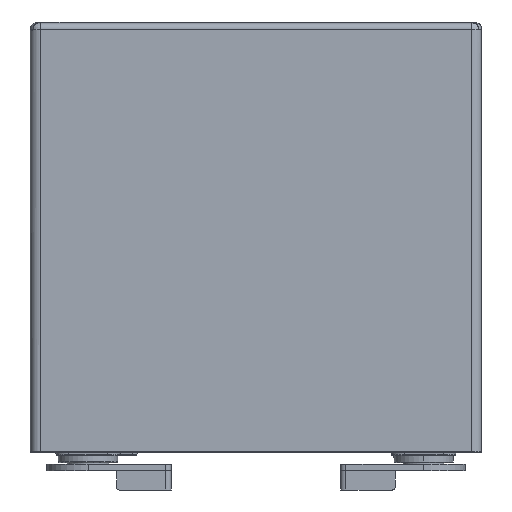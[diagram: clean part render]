
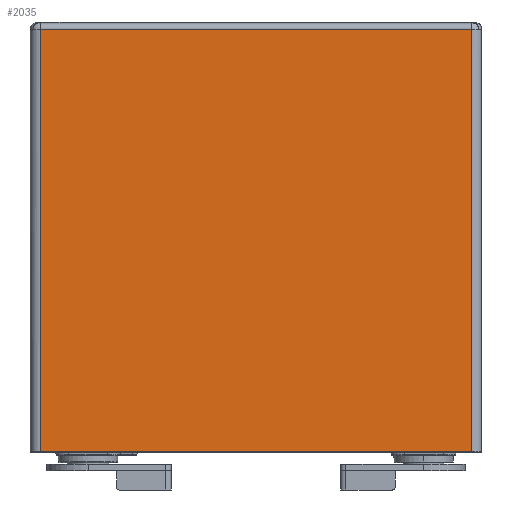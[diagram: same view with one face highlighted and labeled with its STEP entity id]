
A CAD part, front view. The second image highlights one B-rep face of the part: STEP entity #2035.
In plain terms, the highlighted planar face has unit normal (0, 1, 0).
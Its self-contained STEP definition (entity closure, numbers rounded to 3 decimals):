
#306=DIRECTION('',(0.,0.,1.));
#307=VECTOR('',#306,162.68);
#308=CARTESIAN_POINT('',(-83.1,-24.,0.1));
#309=LINE('',#308,#307);
#318=DIRECTION('',(-1.,0.,0.));
#319=VECTOR('',#318,166.19);
#320=CARTESIAN_POINT('',(83.09,-24.,0.1));
#321=LINE('',#320,#319);
#658=DIRECTION('',(1.,0.,0.));
#659=VECTOR('',#658,166.19);
#660=CARTESIAN_POINT('',(-83.1,-24.,162.78));
#661=LINE('',#660,#659);
#693=DIRECTION('',(0.,0.,-1.));
#694=VECTOR('',#693,162.68);
#695=CARTESIAN_POINT('',(83.09,-24.,162.78));
#696=LINE('',#695,#694);
#1374=CARTESIAN_POINT('',(-83.1,-24.,0.1));
#1375=VERTEX_POINT('',#1374);
#1474=CARTESIAN_POINT('',(-83.1,-24.,162.78));
#1475=VERTEX_POINT('',#1474);
#1478=CARTESIAN_POINT('',(83.09,-24.,0.1));
#1479=VERTEX_POINT('',#1478);
#1480=CARTESIAN_POINT('',(83.09,-24.,162.78));
#1481=VERTEX_POINT('',#1480);
#2021=CARTESIAN_POINT('',(-0.005,-24.,81.44));
#2022=DIRECTION('',(0.,1.,0.));
#2023=DIRECTION('',(1.,0.,0.));
#2024=AXIS2_PLACEMENT_3D('',#2021,#2022,#2023);
#2025=PLANE('',#2024);
#2027=ORIENTED_EDGE('',*,*,#2026,.F.);
#2029=ORIENTED_EDGE('',*,*,#2028,.F.);
#2031=ORIENTED_EDGE('',*,*,#2030,.F.);
#2032=ORIENTED_EDGE('',*,*,#2009,.F.);
#2033=EDGE_LOOP('',(#2027,#2029,#2031,#2032));
#2034=FACE_OUTER_BOUND('',#2033,.F.);
#2035=ADVANCED_FACE('',(#2034),#2025,.T.);
#2009=EDGE_CURVE('',#1375,#1475,#309,.T.);
#2026=EDGE_CURVE('',#1479,#1375,#321,.T.);
#2028=EDGE_CURVE('',#1481,#1479,#696,.T.);
#2030=EDGE_CURVE('',#1475,#1481,#661,.T.);
